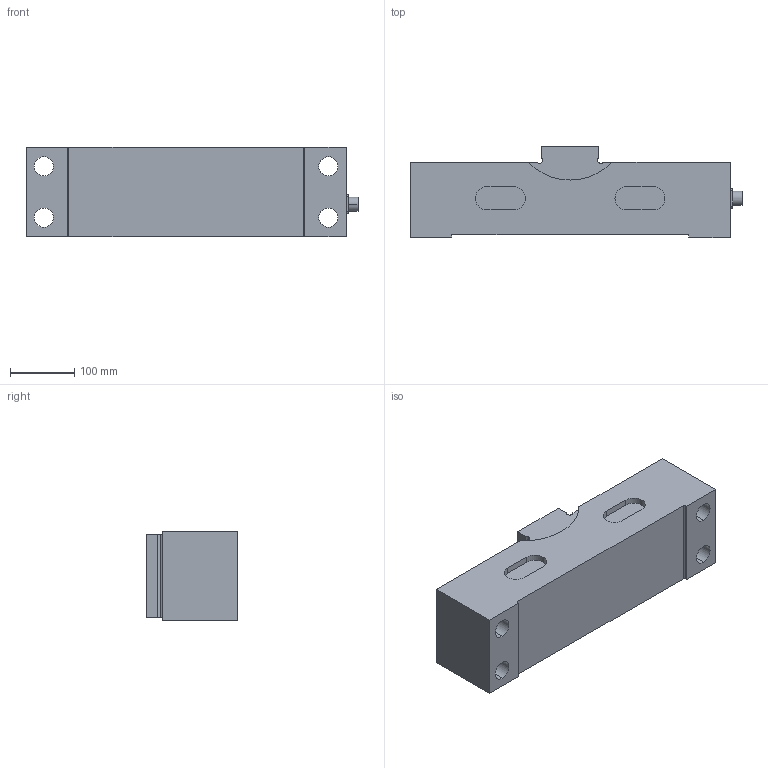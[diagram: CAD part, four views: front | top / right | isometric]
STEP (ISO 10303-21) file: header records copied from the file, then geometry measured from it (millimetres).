
FILE_DESCRIPTION (( 'STEP AP214' ), '1' );
FILE_NAME ('DSA-R 1MN Load Cell.STEP', '2021-06-17T08:22:42', ( '' ), ( '' ), 'SwSTEP 2.0', 'SolidWorks 2021', '' );
FILE_SCHEMA (( 'AUTOMOTIVE_DESIGN' ));
Length unit declared in the file: millimetre
Products named in the file (3): Apparatintag 14S-2 6 P, Amphenol ; DSA-R 1 MN; DSA-R 1MN Load Cell
Assembly tree (2 placements, depth 2):
  DSA-R 1MN Load Cell
    DSA-R 1 MN
    Apparatintag 14S-2 6 P, Amphenol 
Bounding box: 518.3 x 143 x 140 mm (x, y, z)
Volume: 7519230.3 mm3; surface area: 391909 mm2
Topology: 2 solids, 2 shells, 208 faces, 491 edges, 297 vertices
Faces by surface type: cylinder 107, plane 55, cone 34, torus 12
Entity records: 6219 total; most frequent: DIRECTION 1135, CARTESIAN_POINT 979, ORIENTED_EDGE 938, EDGE_CURVE 469, AXIS2_PLACEMENT_3D 453, VERTEX_POINT 297, EDGE_LOOP 256, CIRCLE 240
